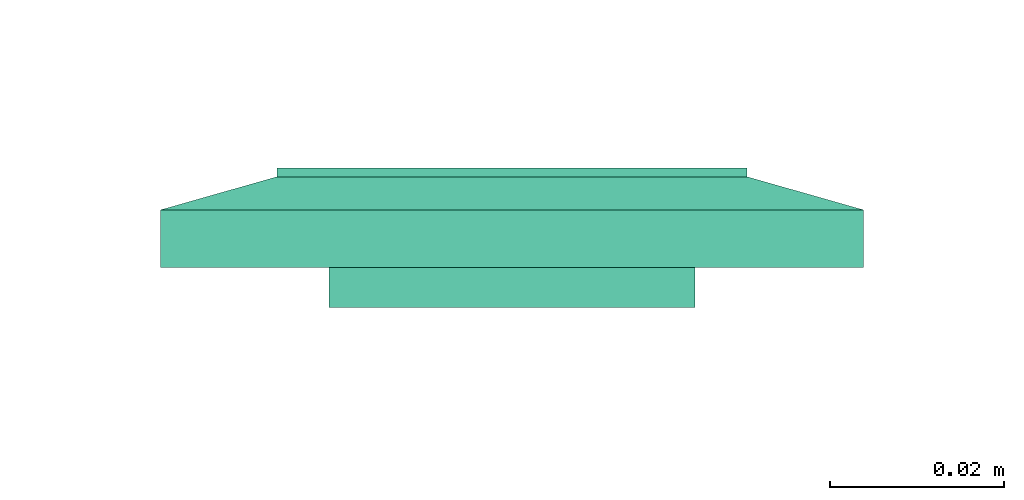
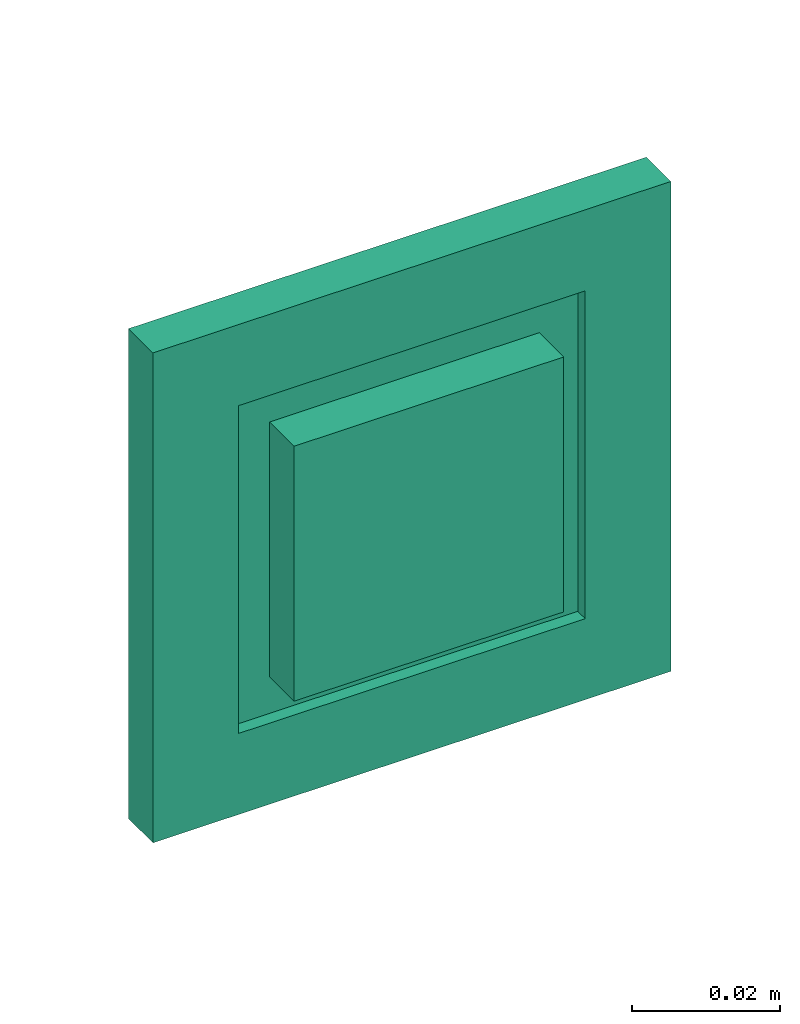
# One storey, part 79 of 146: 1 flow terminal.
"""IFC2X3 building model written with IfcOpenShell, lengths in metres."""

from ifc_helpers import new_model, entity, si_unit, converted_unit, derived_unit, direction, frame, origin, place, context, subcontext, project, spatial, faceted_brep, source, transform, mapped, type_object, type_shapes, element, save


model = new_model("IFC2X3")

# Units and contexts
model_context = context("Model", 3, precision=1e-05, world=origin(), true_north=direction((6.12303176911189e-17, 1.0)))
body_context = subcontext(model_context, "Body", "Model", "MODEL_VIEW")
ifc_project = project(units=[si_unit("LENGTHUNIT", "METRE"), si_unit("AREAUNIT", "SQUARE_METRE"), si_unit("VOLUMEUNIT", "CUBIC_METRE"), converted_unit("PLANEANGLEUNIT", "DEGREE", entity("IfcRatioMeasure", 0.0174532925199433), si_unit("PLANEANGLEUNIT", "RADIAN"), dimensions=[0, 0, 0, 0, 0, 0, 0]), si_unit("MASSUNIT", "GRAM", prefix="KILO"), derived_unit("MASSDENSITYUNIT", [(si_unit("MASSUNIT", "GRAM", prefix="KILO"), 1), (si_unit("LENGTHUNIT", "METRE"), -3)]), si_unit("TIMEUNIT", "SECOND"), si_unit("FREQUENCYUNIT", "HERTZ"), si_unit("THERMODYNAMICTEMPERATUREUNIT", "DEGREE_CELSIUS"), derived_unit("THERMALTRANSMITTANCEUNIT", [(si_unit("MASSUNIT", "GRAM", prefix="KILO"), 1), (si_unit("THERMODYNAMICTEMPERATUREUNIT", "KELVIN"), -1), (si_unit("TIMEUNIT", "SECOND"), -3)]), derived_unit("VOLUMETRICFLOWRATEUNIT", [(si_unit("LENGTHUNIT", "METRE"), 3), (si_unit("TIMEUNIT", "SECOND"), -1)]), si_unit("ELECTRICCURRENTUNIT", "AMPERE"), si_unit("ELECTRICVOLTAGEUNIT", "VOLT"), si_unit("POWERUNIT", "WATT"), si_unit("FORCEUNIT", "NEWTON"), si_unit("ILLUMINANCEUNIT", "LUX"), si_unit("LUMINOUSFLUXUNIT", "LUMEN"), si_unit("LUMINOUSINTENSITYUNIT", "CANDELA"), derived_unit("USERDEFINED", [(si_unit("MASSUNIT", "GRAM", prefix="KILO"), -1), (si_unit("LENGTHUNIT", "METRE"), -2), (si_unit("TIMEUNIT", "SECOND"), 3), (si_unit("LUMINOUSFLUXUNIT", "LUMEN"), 1)]), derived_unit("LINEARVELOCITYUNIT", [(si_unit("LENGTHUNIT", "METRE"), 1), (si_unit("TIMEUNIT", "SECOND"), -1)]), si_unit("PRESSUREUNIT", "PASCAL"), derived_unit("USERDEFINED", [(si_unit("LENGTHUNIT", "METRE"), -2), (si_unit("MASSUNIT", "GRAM", prefix="KILO"), 1), (si_unit("TIMEUNIT", "SECOND"), -2)])], contexts=[model_context])

# Site, building, storey
site_placement = place(None, origin())
site = spatial("IfcSite", under=ifc_project, at=site_placement, Name="Default", CompositionType="ELEMENT")
building_placement = place(site_placement, origin())
building = spatial("IfcBuilding", under=site, at=building_placement, CompositionType="ELEMENT")
storey_placement = place(building_placement, origin())
storey = spatial("IfcBuildingStorey", under=building, at=storey_placement, Name="S01", CompositionType="ELEMENT", Elevation=0.0)

# Flow terminal
electric_appliance_type = type_object("IfcElectricApplianceType", Name="RJ45 IP20", PredefinedType="NOTDEFINED")
shared_shape = source(origin(), body_context, "Body", "Brep", [
    faceted_brep([(0.00200000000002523, 0.0, 0.00799999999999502), (0.00400000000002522, 0.0, 0.00799999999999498), (0.00500000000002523, 0.00199999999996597, 0.00799999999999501), (0.0110000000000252, 0.00199999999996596, 0.00799999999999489), (0.0120000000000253, 0.0, 0.00799999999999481), (0.0140000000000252, 0.0, 0.00799999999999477), (0.0140000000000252, 0.00399999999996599, 0.00799999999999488), (0.00200000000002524, 0.00399999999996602, 0.00799999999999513), (0.00200000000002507, 0.0, 0.0), (0.00200000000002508, 0.00399999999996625, 0.0), (0.0140000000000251, 0.00399999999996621, 0.0), (0.0140000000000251, 0.0, 0.0), (0.0120000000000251, 0.0, 0.0), (0.0110000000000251, 0.00199999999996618, 0.0), (0.00500000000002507, 0.0019999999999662, 0.0), (0.00400000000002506, 0.0, 0.0)], [[[0, 1, 2, 3, 4, 5, 6, 7]], [[8, 9, 10, 11, 12, 13, 14, 15]], [[1, 0, 8, 15]], [[2, 1, 15, 14]], [[3, 2, 14, 13]], [[4, 3, 13, 12]], [[5, 4, 12, 11]], [[6, 5, 11, 10]], [[7, 6, 10, 9]], [[0, 7, 9, 8]]]),
    faceted_brep([(-0.0139999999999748, 0.0, 0.00799999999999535), (-0.0119999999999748, 0.0, 0.00799999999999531), (-0.0109999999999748, 0.00199999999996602, 0.00799999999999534), (-0.00499999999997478, 0.00199999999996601, 0.00799999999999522), (-0.0039999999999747, 0.0, 0.00799999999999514), (-0.00199999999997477, 0.0, 0.0079999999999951), (-0.00199999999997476, 0.00399999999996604, 0.00799999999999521), (-0.0139999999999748, 0.00399999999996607, 0.00799999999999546), (-0.0139999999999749, 0.0, 0.0), (-0.0139999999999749, 0.00399999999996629, 0.0), (-0.00199999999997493, 0.00399999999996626, 0.0), (-0.00199999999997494, 0.0, 0.0), (-0.00399999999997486, 0.0, 0.0), (-0.00499999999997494, 0.00199999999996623, 0.0), (-0.0109999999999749, 0.00199999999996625, 0.0), (-0.0119999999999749, 0.0, 0.0)], [[[0, 1, 2, 3, 4, 5, 6, 7]], [[8, 9, 10, 11, 12, 13, 14, 15]], [[1, 0, 8, 15]], [[2, 1, 15, 14]], [[3, 2, 14, 13]], [[4, 3, 13, 12]], [[5, 4, 12, 11]], [[6, 5, 11, 10]], [[7, 6, 10, 9]], [[0, 7, 9, 8]]]),
    faceted_brep([(0.0140000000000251, 0.00399999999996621, 0.0), (0.00200000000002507, 0.00399999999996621, 0.0), (0.00200000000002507, -0.00350000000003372, 0.0), (0.0140000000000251, -0.00350000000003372, 0.0), (0.0140000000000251, 0.00399999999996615, 0.00199999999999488), (0.00200000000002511, 0.00399999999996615, 0.00199999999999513), (0.00200000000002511, -0.00393859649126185, 0.00199999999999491), (0.0140000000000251, -0.00393859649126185, 0.00199999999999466), (0.0210000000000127, 0.0209999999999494, 0.00199999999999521), (-0.0209999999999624, 0.0209999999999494, 0.00199999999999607), (-0.0209999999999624, -0.0210000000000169, 0.00199999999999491), (0.0210000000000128, -0.0210000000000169, 0.00199999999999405), (-0.0139999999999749, 0.0039999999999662, 0.00199999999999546), (-0.0019999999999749, 0.0039999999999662, 0.00199999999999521), (-0.00199999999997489, -0.0039385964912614, 0.00199999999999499), (-0.0139999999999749, -0.00393859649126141, 0.00199999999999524), (0.0210000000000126, 0.0209999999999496, -0.00460000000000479), (0.0210000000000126, -0.0210000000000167, -0.00460000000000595), (-0.0209999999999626, -0.0210000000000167, -0.00460000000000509), (-0.0209999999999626, 0.0209999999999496, -0.00460000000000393), (-0.00199999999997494, 0.00399999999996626, 0.0), (-0.0139999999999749, 0.00399999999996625, 0.0), (-0.0139999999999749, -0.00350000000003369, 0.0), (-0.00199999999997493, -0.00350000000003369, 0.0)], [[[0, 1, 2, 3]], [[1, 0, 4, 5]], [[2, 1, 5, 6]], [[3, 2, 6, 7]], [[0, 3, 7, 4]], [[5, 4, 7, 6], [8, 9, 10, 11], [12, 13, 14, 15]], [[16, 17, 18, 19]], [[9, 8, 16, 19]], [[10, 9, 19, 18]], [[11, 10, 18, 17]], [[8, 11, 17, 16]], [[20, 21, 22, 23]], [[21, 20, 13, 12]], [[22, 21, 12, 15]], [[23, 22, 15, 14]], [[20, 23, 14, 13]]], outer=[[True], [True], [True], [True], [True], [False, True, False], [True], [True], [True], [True], [True], [True], [True], [True], [True], [True]]),
    faceted_brep([(0.0270000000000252, 0.026999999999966, 0.0113999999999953), (-0.0269999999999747, 0.026999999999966, 0.0113999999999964), (-0.0269999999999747, -0.0270000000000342, 0.0113999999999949), (0.0270000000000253, -0.0270000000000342, 0.0113999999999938), (0.0020000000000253, 0.00399999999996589, 0.0113999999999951), (0.0140000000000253, 0.00399999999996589, 0.0113999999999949), (0.0140000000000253, -0.00600000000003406, 0.0113999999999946), (0.0020000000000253, -0.00600000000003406, 0.0113999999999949), (-0.0139999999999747, 0.00399999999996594, 0.0113999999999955), (-0.00199999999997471, 0.00399999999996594, 0.0113999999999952), (-0.00199999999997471, -0.0060000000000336, 0.0113999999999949), (-0.0139999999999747, -0.00600000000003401, 0.0113999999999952), (0.0270000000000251, 0.0269999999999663, 0.00199999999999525), (0.0270000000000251, -0.0270000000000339, 0.00199999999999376), (-0.0269999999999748, -0.0270000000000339, 0.00199999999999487), (-0.0269999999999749, 0.0269999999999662, 0.00199999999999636), (0.0140000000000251, 0.00399999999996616, 0.00199999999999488), (0.00200000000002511, 0.00399999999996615, 0.00199999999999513), (0.00200000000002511, -0.00393859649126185, 0.00199999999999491), (0.0140000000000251, -0.00393859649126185, 0.00199999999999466), (-0.00199999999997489, 0.0039999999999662, 0.00199999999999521), (-0.0139999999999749, 0.0039999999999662, 0.00199999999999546), (-0.0139999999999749, -0.0039385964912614, 0.00199999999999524), (-0.00199999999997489, -0.0039385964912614, 0.00199999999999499)], [[[0, 1, 2, 3], [4, 5, 6, 7], [8, 9, 10, 11]], [[12, 13, 14, 15], [16, 17, 18, 19], [20, 21, 22, 23]], [[1, 0, 12, 15]], [[2, 1, 15, 14]], [[3, 2, 14, 13]], [[0, 3, 13, 12]], [[4, 17, 16, 5]], [[17, 4, 7, 18]], [[18, 7, 6, 19]], [[5, 16, 19, 6]], [[8, 21, 20, 9]], [[21, 8, 11, 22]], [[22, 11, 10, 23]], [[9, 20, 23, 10]]]),
    faceted_brep([(0.027000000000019, 0.0269999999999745, 0.00659999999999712), (-0.0269999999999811, 0.0269999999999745, 0.00659999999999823), (-0.026999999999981, -0.0270000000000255, 0.00659999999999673), (0.027000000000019, -0.0270000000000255, 0.00659999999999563), (0.040350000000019, 0.0403499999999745, 0.00659999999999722), (0.040350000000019, -0.0403500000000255, 0.00659999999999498), (-0.0403499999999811, -0.0403500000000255, 0.00659999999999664), (-0.0403499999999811, 0.0403499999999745, 0.00659999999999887), (-0.026999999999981, 0.0269999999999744, 0.0103999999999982), (0.027000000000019, 0.0269999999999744, 0.0103999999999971), (-0.026999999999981, -0.0270000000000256, 0.0103999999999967), (0.027000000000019, -0.0270000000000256, 0.0103999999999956)], [[[0, 1, 2, 3], [4, 5, 6, 7]], [[4, 7, 8, 9]], [[7, 6, 10, 8]], [[6, 5, 11, 10]], [[5, 4, 9, 11]], [[0, 9, 8, 1]], [[1, 8, 10, 2]], [[2, 10, 11, 3]], [[9, 0, 3, 11]]], outer=[[False, True], [True], [True], [True], [True], [True], [True], [True], [True]]),
    faceted_brep([(0.040350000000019, 0.0403499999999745, 0.00659999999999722), (-0.0403499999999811, 0.0403499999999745, 0.00659999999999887), (-0.0403499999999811, -0.0403500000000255, 0.00659999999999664), (0.040350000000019, -0.0403500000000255, 0.00659999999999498), (-0.0269999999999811, 0.0269999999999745, 0.00659999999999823), (0.0270000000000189, 0.0269999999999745, 0.00659999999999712), (0.0270000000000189, -0.0270000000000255, 0.00659999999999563), (-0.0269999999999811, -0.0270000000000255, 0.00659999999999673), (0.0403500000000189, 0.0403499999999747, 0.0), (0.0403500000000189, -0.0403500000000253, 0.0), (-0.0403499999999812, -0.0403500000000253, 0.0), (-0.0403499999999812, 0.0403499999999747, 0.0), (0.0270000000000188, 0.0269999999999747, 0.0), (-0.0269999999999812, 0.0269999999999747, 0.0), (-0.0269999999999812, -0.0270000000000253, 0.0), (0.0270000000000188, -0.0270000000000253, 0.0)], [[[0, 1, 2, 3], [4, 5, 6, 7]], [[8, 9, 10, 11], [12, 13, 14, 15]], [[1, 0, 8, 11]], [[2, 1, 11, 10]], [[3, 2, 10, 9]], [[0, 3, 9, 8]], [[12, 5, 4, 13]], [[13, 4, 7, 14]], [[14, 7, 6, 15]], [[5, 12, 15, 6]]]),
])
type_shapes(electric_appliance_type, [shared_shape])
flow_terminal_placement = place(storey_placement, frame((62.1109396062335, -193.177069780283, 0.320000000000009), z_axis=(0.0, 1.0, 0.0), x_axis=(-1.0, 0.0, 0.0)))
element("IfcFlowTerminal", 1, at=flow_terminal_placement, inside=storey, type_object=electric_appliance_type, Name="INT_Prise RJ45:RJ45 IP20", ObjectType="INT_Prise RJ45:RJ45 IP20", context=body_context, shape_type="MappedRepresentation", body=[
    mapped(shared_shape, transform((0.0, 0.0, 0.0), scale=1.0)),
])

save(model, "model.ifc")
